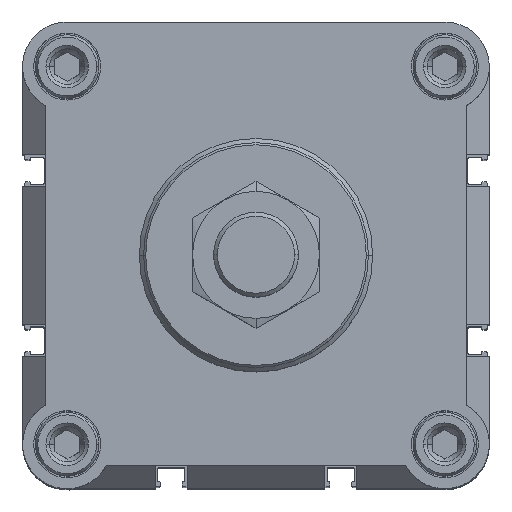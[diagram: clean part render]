
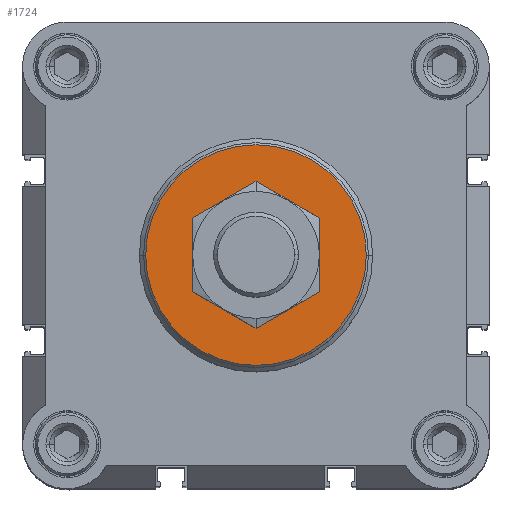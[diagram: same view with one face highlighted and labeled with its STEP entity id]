
A CAD part, top view. The second image highlights one B-rep face of the part: STEP entity #1724.
In plain terms, the highlighted planar face has unit normal (0, 0, 1).
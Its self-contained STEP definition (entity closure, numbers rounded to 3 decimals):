
#348 = AXIS2_PLACEMENT_3D ( 'NONE', #13384, #11852, #17772 ) ;
#688 = EDGE_CURVE ( 'NONE', #11294, #12228, #2470, .T. ) ;
#990 = DIRECTION ( 'NONE',  ( 0., 0., 1. ) ) ;
#1145 = CIRCLE ( 'NONE', #9317, 26. ) ;
#1418 = CARTESIAN_POINT ( 'NONE',  ( 0., 0., 38.2 ) ) ;
#1724 = ADVANCED_FACE ( 'NONE', ( #16691, #2795 ), #4164, .F. ) ;
#2396 = DIRECTION ( 'NONE',  ( 0., 0., -1. ) ) ;
#2470 = CIRCLE ( 'NONE', #14731, 26. ) ;
#2795 = FACE_BOUND ( 'NONE', #12540, .T. ) ;
#3814 = CARTESIAN_POINT ( 'NONE',  ( -12.5, 0., 38.2 ) ) ;
#4164 = PLANE ( 'NONE',  #5342 ) ;
#4461 = EDGE_CURVE ( 'NONE', #12006, #15018, #5440, .T. ) ;
#5342 = AXIS2_PLACEMENT_3D ( 'NONE', #1418, #5635, #11381 ) ;
#5440 = CIRCLE ( 'NONE', #348, 12.5 ) ;
#5635 = DIRECTION ( 'NONE',  ( 0., 0., -1. ) ) ;
#6343 = ORIENTED_EDGE ( 'NONE', *, *, #11910, .F. ) ;
#6842 = DIRECTION ( 'NONE',  ( 0., 0., -1. ) ) ;
#7622 = ORIENTED_EDGE ( 'NONE', *, *, #12092, .F. ) ;
#7752 = CARTESIAN_POINT ( 'NONE',  ( 0., 0., 38.2 ) ) ;
#7781 = DIRECTION ( 'NONE',  ( -1., 0., 0. ) ) ;
#8649 = CARTESIAN_POINT ( 'NONE',  ( -26., 0., 38.2 ) ) ;
#9317 = AXIS2_PLACEMENT_3D ( 'NONE', #13776, #6842, #12415 ) ;
#9677 = ORIENTED_EDGE ( 'NONE', *, *, #688, .F. ) ;
#9900 = CARTESIAN_POINT ( 'NONE',  ( 12.5, 0., 38.2 ) ) ;
#11294 = VERTEX_POINT ( 'NONE', #13727 ) ;
#11381 = DIRECTION ( 'NONE',  ( 0., -1., 0. ) ) ;
#11793 = DIRECTION ( 'NONE',  ( 0., 1., 0. ) ) ;
#11852 = DIRECTION ( 'NONE',  ( 0., 0., 1. ) ) ;
#11910 = EDGE_CURVE ( 'NONE', #15018, #12006, #17760, .T. ) ;
#12006 = VERTEX_POINT ( 'NONE', #3814 ) ;
#12092 = EDGE_CURVE ( 'NONE', #12228, #11294, #1145, .T. ) ;
#12102 = ORIENTED_EDGE ( 'NONE', *, *, #4461, .F. ) ;
#12228 = VERTEX_POINT ( 'NONE', #8649 ) ;
#12415 = DIRECTION ( 'NONE',  ( -1., 0., 0. ) ) ;
#12540 = EDGE_LOOP ( 'NONE', ( #6343, #12102 ) ) ;
#13251 = EDGE_LOOP ( 'NONE', ( #7622, #9677 ) ) ;
#13384 = CARTESIAN_POINT ( 'NONE',  ( 0., 0., 38.2 ) ) ;
#13727 = CARTESIAN_POINT ( 'NONE',  ( 26., 0., 38.2 ) ) ;
#13776 = CARTESIAN_POINT ( 'NONE',  ( 0., 0., 38.2 ) ) ;
#13956 = AXIS2_PLACEMENT_3D ( 'NONE', #7752, #990, #11793 ) ;
#14731 = AXIS2_PLACEMENT_3D ( 'NONE', #14909, #2396, #7781 ) ;
#14909 = CARTESIAN_POINT ( 'NONE',  ( 0., 0., 38.2 ) ) ;
#15018 = VERTEX_POINT ( 'NONE', #9900 ) ;
#16691 = FACE_OUTER_BOUND ( 'NONE', #13251, .T. ) ;
#17760 = CIRCLE ( 'NONE', #13956, 12.5 ) ;
#17772 = DIRECTION ( 'NONE',  ( 0., 1., 0. ) ) ;
